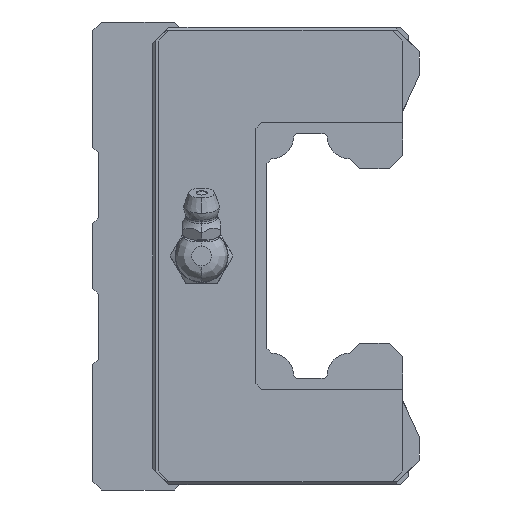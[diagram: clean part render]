
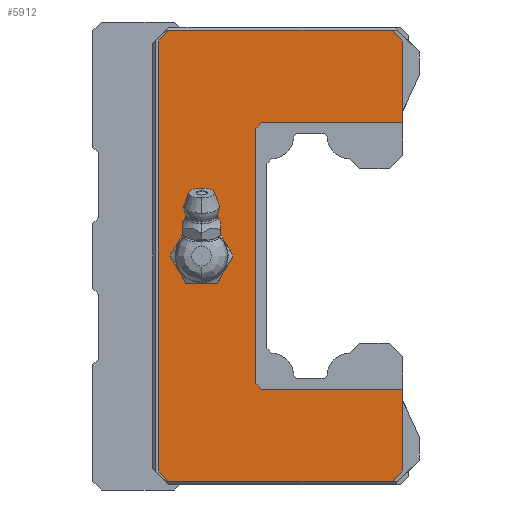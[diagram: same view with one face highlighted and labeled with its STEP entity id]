
A CAD part, left-side view. The second image highlights one B-rep face of the part: STEP entity #5912.
In plain terms, the highlighted planar face has unit normal (-1, 0, 0).
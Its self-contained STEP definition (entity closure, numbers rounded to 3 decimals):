
#13 = CARTESIAN_POINT ( 'NONE',  ( -83.9, 15., -41.5 ) ) ;
#22 = LINE ( 'NONE', #4353, #1506 ) ;
#47 = LINE ( 'NONE', #3304, #2367 ) ;
#95 = ORIENTED_EDGE ( 'NONE', *, *, #1011, .T. ) ;
#99 = CARTESIAN_POINT ( 'NONE',  ( -83.9, 58., 39.5 ) ) ;
#104 = VECTOR ( 'NONE', #2054, 1000. ) ;
#163 = EDGE_CURVE ( 'NONE', #6919, #2979, #1004, .T. ) ;
#202 = CARTESIAN_POINT ( 'NONE',  ( -83.9, 13., 39.5 ) ) ;
#263 = LINE ( 'NONE', #2689, #1408 ) ;
#315 = CARTESIAN_POINT ( 'NONE',  ( -83.9, 58., -39.5 ) ) ;
#332 = VERTEX_POINT ( 'NONE', #99 ) ;
#344 = EDGE_CURVE ( 'NONE', #7297, #5313, #1479, .T. ) ;
#376 = CARTESIAN_POINT ( 'NONE',  ( -83.9, 39., 24.5 ) ) ;
#393 = EDGE_CURVE ( 'NONE', #1558, #1174, #7558, .T. ) ;
#438 = EDGE_CURVE ( 'NONE', #5283, #332, #263, .T. ) ;
#560 = VERTEX_POINT ( 'NONE', #1638 ) ;
#693 = DIRECTION ( 'NONE',  ( 0., 0., -1. ) ) ;
#733 = CARTESIAN_POINT ( 'NONE',  ( -83.9, 13., -39.5 ) ) ;
#757 = CARTESIAN_POINT ( 'NONE',  ( -83.9, 50., 4.864 ) ) ;
#762 = VECTOR ( 'NONE', #4381, 1000. ) ;
#829 = LINE ( 'NONE', #5181, #1263 ) ;
#880 = LINE ( 'NONE', #2716, #6227 ) ;
#960 = CARTESIAN_POINT ( 'NONE',  ( -83.9, 13., -24.5 ) ) ;
#1004 = CIRCLE ( 'NONE', #5345, 4.864 ) ;
#1011 = EDGE_CURVE ( 'NONE', #5313, #7746, #7497, .T. ) ;
#1072 = FACE_OUTER_BOUND ( 'NONE', #3043, .T. ) ;
#1174 = VERTEX_POINT ( 'NONE', #3348 ) ;
#1253 = CARTESIAN_POINT ( 'NONE',  ( -83.9, 50., 0. ) ) ;
#1259 = VERTEX_POINT ( 'NONE', #7170 ) ;
#1263 = VECTOR ( 'NONE', #3869, 1000. ) ;
#1408 = VECTOR ( 'NONE', #2074, 1000. ) ;
#1446 = CARTESIAN_POINT ( 'NONE',  ( -83.9, 13., 39.5 ) ) ;
#1479 = LINE ( 'NONE', #2039, #4733 ) ;
#1506 = VECTOR ( 'NONE', #3687, 1000. ) ;
#1558 = VERTEX_POINT ( 'NONE', #6681 ) ;
#1564 = LINE ( 'NONE', #7680, #7376 ) ;
#1638 = CARTESIAN_POINT ( 'NONE',  ( -83.9, 15., 41.5 ) ) ;
#1714 = ORIENTED_EDGE ( 'NONE', *, *, #5803, .T. ) ;
#1745 = PLANE ( 'NONE',  #5972 ) ;
#1820 = VERTEX_POINT ( 'NONE', #376 ) ;
#2039 = CARTESIAN_POINT ( 'NONE',  ( -83.9, 13., -39.5 ) ) ;
#2054 = DIRECTION ( 'NONE',  ( 0., 0., -1. ) ) ;
#2074 = DIRECTION ( 'NONE',  ( 0., 0.707, -0.707 ) ) ;
#2199 = DIRECTION ( 'NONE',  ( 0., -1., 0. ) ) ;
#2299 = DIRECTION ( 'NONE',  ( 1., 0., 0. ) ) ;
#2367 = VECTOR ( 'NONE', #3023, 1000. ) ;
#2444 = DIRECTION ( 'NONE',  ( 1., 0., 0. ) ) ;
#2654 = ORIENTED_EDGE ( 'NONE', *, *, #6119, .T. ) ;
#2689 = CARTESIAN_POINT ( 'NONE',  ( -83.9, 58., 39.5 ) ) ;
#2716 = CARTESIAN_POINT ( 'NONE',  ( -83.9, 15., 41.5 ) ) ;
#2761 = ORIENTED_EDGE ( 'NONE', *, *, #163, .T. ) ;
#2800 = DIRECTION ( 'NONE',  ( 0., -0.707, -0.707 ) ) ;
#2892 = VECTOR ( 'NONE', #5637, 1000. ) ;
#2944 = FACE_BOUND ( 'NONE', #4723, .T. ) ;
#2979 = VERTEX_POINT ( 'NONE', #4930 ) ;
#2991 = CARTESIAN_POINT ( 'NONE',  ( -83.9, 58., -39.5 ) ) ;
#3023 = DIRECTION ( 'NONE',  ( 0., -0.707, 0.707 ) ) ;
#3043 = EDGE_LOOP ( 'NONE', ( #2654, #5041, #5819, #1714, #4005, #6427, #4056, #3971, #5284, #4221, #95, #3208, #4372, #4184 ) ) ;
#3063 = EDGE_CURVE ( 'NONE', #1820, #1558, #1564, .T. ) ;
#3073 = LINE ( 'NONE', #13, #2892 ) ;
#3208 = ORIENTED_EDGE ( 'NONE', *, *, #3230, .T. ) ;
#3230 = EDGE_CURVE ( 'NONE', #7746, #6044, #22, .T. ) ;
#3304 = CARTESIAN_POINT ( 'NONE',  ( -83.9, 40., 23.5 ) ) ;
#3306 = LINE ( 'NONE', #315, #104 ) ;
#3322 = DIRECTION ( 'NONE',  ( 0., 0.707, 0.707 ) ) ;
#3348 = CARTESIAN_POINT ( 'NONE',  ( -83.9, 13., 39.5 ) ) ;
#3384 = EDGE_CURVE ( 'NONE', #1259, #6689, #6281, .T. ) ;
#3687 = DIRECTION ( 'NONE',  ( 0., 1., 0. ) ) ;
#3806 = EDGE_CURVE ( 'NONE', #6044, #1259, #829, .T. ) ;
#3869 = DIRECTION ( 'NONE',  ( 0., 0.707, 0.707 ) ) ;
#3934 = VECTOR ( 'NONE', #2800, 1000. ) ;
#3971 = ORIENTED_EDGE ( 'NONE', *, *, #7711, .T. ) ;
#4005 = ORIENTED_EDGE ( 'NONE', *, *, #5826, .T. ) ;
#4033 = LINE ( 'NONE', #6358, #3934 ) ;
#4056 = ORIENTED_EDGE ( 'NONE', *, *, #7370, .T. ) ;
#4184 = ORIENTED_EDGE ( 'NONE', *, *, #3384, .T. ) ;
#4192 = DIRECTION ( 'NONE',  ( 0., 1., 0. ) ) ;
#4221 = ORIENTED_EDGE ( 'NONE', *, *, #344, .T. ) ;
#4280 = ORIENTED_EDGE ( 'NONE', *, *, #7160, .T. ) ;
#4316 = CARTESIAN_POINT ( 'NONE',  ( -83.9, 40., 23.5 ) ) ;
#4336 = VECTOR ( 'NONE', #7401, 1000. ) ;
#4353 = CARTESIAN_POINT ( 'NONE',  ( -83.9, 13., -24.5 ) ) ;
#4365 = CARTESIAN_POINT ( 'NONE',  ( -83.9, 56., 41.5 ) ) ;
#4372 = ORIENTED_EDGE ( 'NONE', *, *, #3806, .T. ) ;
#4381 = DIRECTION ( 'NONE',  ( 0., 0., 1. ) ) ;
#4403 = DIRECTION ( 'NONE',  ( 0., -0.707, 0.707 ) ) ;
#4723 = EDGE_LOOP ( 'NONE', ( #2761, #4280 ) ) ;
#4733 = VECTOR ( 'NONE', #4403, 1000. ) ;
#4834 = VECTOR ( 'NONE', #4919, 1000. ) ;
#4912 = CARTESIAN_POINT ( 'NONE',  ( -83.9, 56., -41.5 ) ) ;
#4919 = DIRECTION ( 'NONE',  ( 0., 0., 1. ) ) ;
#4930 = CARTESIAN_POINT ( 'NONE',  ( -83.9, 50., -4.864 ) ) ;
#4948 = VECTOR ( 'NONE', #5763, 1000. ) ;
#5041 = ORIENTED_EDGE ( 'NONE', *, *, #3063, .T. ) ;
#5181 = CARTESIAN_POINT ( 'NONE',  ( -83.9, 39., -24.5 ) ) ;
#5236 = LINE ( 'NONE', #6902, #4948 ) ;
#5283 = VERTEX_POINT ( 'NONE', #4365 ) ;
#5284 = ORIENTED_EDGE ( 'NONE', *, *, #6943, .T. ) ;
#5313 = VERTEX_POINT ( 'NONE', #733 ) ;
#5345 = AXIS2_PLACEMENT_3D ( 'NONE', #1253, #2444, #693 ) ;
#5384 = CARTESIAN_POINT ( 'NONE',  ( -83.9, 50., 0. ) ) ;
#5579 = VERTEX_POINT ( 'NONE', #2991 ) ;
#5637 = DIRECTION ( 'NONE',  ( 0., -1., 0. ) ) ;
#5763 = DIRECTION ( 'NONE',  ( 0., 1., 0. ) ) ;
#5803 = EDGE_CURVE ( 'NONE', #1174, #560, #880, .T. ) ;
#5819 = ORIENTED_EDGE ( 'NONE', *, *, #393, .T. ) ;
#5826 = EDGE_CURVE ( 'NONE', #560, #5283, #5236, .T. ) ;
#5846 = CIRCLE ( 'NONE', #6352, 4.864 ) ;
#5912 = ADVANCED_FACE ( 'NONE', ( #1072, #2944 ), #1745, .F. ) ;
#5944 = DIRECTION ( 'NONE',  ( 0., 0., -1. ) ) ;
#5950 = DIRECTION ( 'NONE',  ( 1., 0., 0. ) ) ;
#5972 = AXIS2_PLACEMENT_3D ( 'NONE', #7102, #5950, #4192 ) ;
#6044 = VERTEX_POINT ( 'NONE', #6337 ) ;
#6119 = EDGE_CURVE ( 'NONE', #6689, #1820, #47, .T. ) ;
#6227 = VECTOR ( 'NONE', #3322, 1000. ) ;
#6281 = LINE ( 'NONE', #7431, #4834 ) ;
#6337 = CARTESIAN_POINT ( 'NONE',  ( -83.9, 39., -24.5 ) ) ;
#6352 = AXIS2_PLACEMENT_3D ( 'NONE', #5384, #2299, #5944 ) ;
#6358 = CARTESIAN_POINT ( 'NONE',  ( -83.9, 56., -41.5 ) ) ;
#6427 = ORIENTED_EDGE ( 'NONE', *, *, #438, .T. ) ;
#6681 = CARTESIAN_POINT ( 'NONE',  ( -83.9, 13., 24.5 ) ) ;
#6689 = VERTEX_POINT ( 'NONE', #4316 ) ;
#6902 = CARTESIAN_POINT ( 'NONE',  ( -83.9, 56., 41.5 ) ) ;
#6919 = VERTEX_POINT ( 'NONE', #757 ) ;
#6930 = VERTEX_POINT ( 'NONE', #4912 ) ;
#6943 = EDGE_CURVE ( 'NONE', #6930, #7297, #3073, .T. ) ;
#7102 = CARTESIAN_POINT ( 'NONE',  ( -83.9, 10., 0. ) ) ;
#7160 = EDGE_CURVE ( 'NONE', #2979, #6919, #5846, .T. ) ;
#7170 = CARTESIAN_POINT ( 'NONE',  ( -83.9, 40., -23.5 ) ) ;
#7297 = VERTEX_POINT ( 'NONE', #7455 ) ;
#7370 = EDGE_CURVE ( 'NONE', #332, #5579, #3306, .T. ) ;
#7376 = VECTOR ( 'NONE', #2199, 1000. ) ;
#7401 = DIRECTION ( 'NONE',  ( 0., 0., 1. ) ) ;
#7431 = CARTESIAN_POINT ( 'NONE',  ( -83.9, 40., -23.5 ) ) ;
#7455 = CARTESIAN_POINT ( 'NONE',  ( -83.9, 15., -41.5 ) ) ;
#7497 = LINE ( 'NONE', #202, #762 ) ;
#7558 = LINE ( 'NONE', #1446, #4336 ) ;
#7680 = CARTESIAN_POINT ( 'NONE',  ( -83.9, 39., 24.5 ) ) ;
#7711 = EDGE_CURVE ( 'NONE', #5579, #6930, #4033, .T. ) ;
#7746 = VERTEX_POINT ( 'NONE', #960 ) ;
